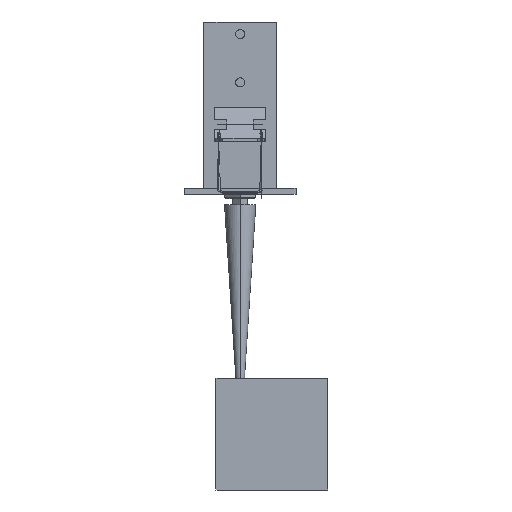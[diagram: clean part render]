
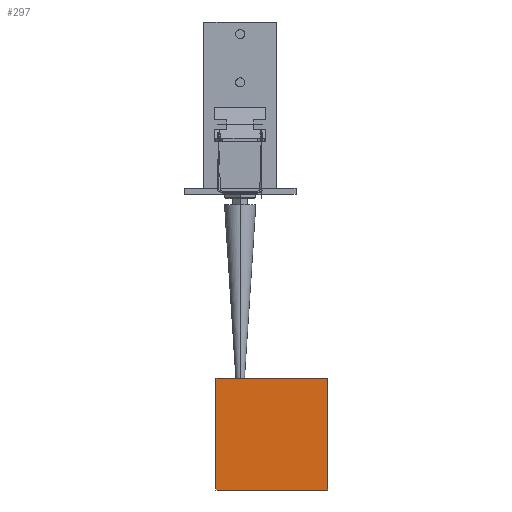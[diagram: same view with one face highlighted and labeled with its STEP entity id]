
A CAD part, left-side view. The second image highlights one B-rep face of the part: STEP entity #297.
In plain terms, the highlighted planar face has unit normal (-1, 0, 0).
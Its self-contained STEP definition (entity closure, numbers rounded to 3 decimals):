
#297=ADVANCED_FACE($,(#530),#3695,.T.);
#530=FACE_OUTER_BOUND($,#767,.T.);
#767=EDGE_LOOP($,(#1529,#1530,#1531,#1532));
#1529=ORIENTED_EDGE($,*,*,#2508,.F.);
#1530=ORIENTED_EDGE($,*,*,#2506,.F.);
#1531=ORIENTED_EDGE($,*,*,#2507,.T.);
#1532=ORIENTED_EDGE($,*,*,#2505,.F.);
#2505=EDGE_CURVE($,#3196,#3197,#4021,.T.);
#2506=EDGE_CURVE($,#3198,#3195,#4022,.T.);
#2507=EDGE_CURVE($,#3198,#3197,#4023,.T.);
#2508=EDGE_CURVE($,#3195,#3196,#4024,.T.);
#3195=VERTEX_POINT($,#7016);
#3196=VERTEX_POINT($,#7017);
#3197=VERTEX_POINT($,#7018);
#3198=VERTEX_POINT($,#7019);
#3695=PLANE($,#4687);
#4021=B_SPLINE_CURVE_WITH_KNOTS($,1,(#7007,#7008),.UNSPECIFIED.,.F.,.F.,
(2,2),(-37.,0.),.UNSPECIFIED.);
#4022=B_SPLINE_CURVE_WITH_KNOTS($,1,(#7009,#7010),.UNSPECIFIED.,.F.,.F.,
(2,2),(0.,37.),.UNSPECIFIED.);
#4023=B_SPLINE_CURVE_WITH_KNOTS($,1,(#7011,#7012),.UNSPECIFIED.,.F.,.F.,
(2,2),(0.,37.),.UNSPECIFIED.);
#4024=B_SPLINE_CURVE_WITH_KNOTS($,1,(#7013,#7014),.UNSPECIFIED.,.F.,.F.,
(2,2),(0.,37.),.UNSPECIFIED.);
#4687=AXIS2_PLACEMENT_3D($,#7015,#4815,$);
#4815=DIRECTION($,(-1.,0.,0.));
#7007=CARTESIAN_POINT($,(-18.5,8.,-100.));
#7008=CARTESIAN_POINT($,(-18.5,8.,-63.));
#7009=CARTESIAN_POINT($,(-18.5,-29.,-63.));
#7010=CARTESIAN_POINT($,(-18.5,-29.,-100.));
#7011=CARTESIAN_POINT($,(-18.5,-29.,-63.));
#7012=CARTESIAN_POINT($,(-18.5,8.,-63.));
#7013=CARTESIAN_POINT($,(-18.5,-29.,-100.));
#7014=CARTESIAN_POINT($,(-18.5,8.,-100.));
#7015=CARTESIAN_POINT($,(-18.5,8.,-100.));
#7016=CARTESIAN_POINT($,(-18.5,-29.,-100.));
#7017=CARTESIAN_POINT($,(-18.5,8.,-100.));
#7018=CARTESIAN_POINT($,(-18.5,8.,-63.));
#7019=CARTESIAN_POINT($,(-18.5,-29.,-63.));
